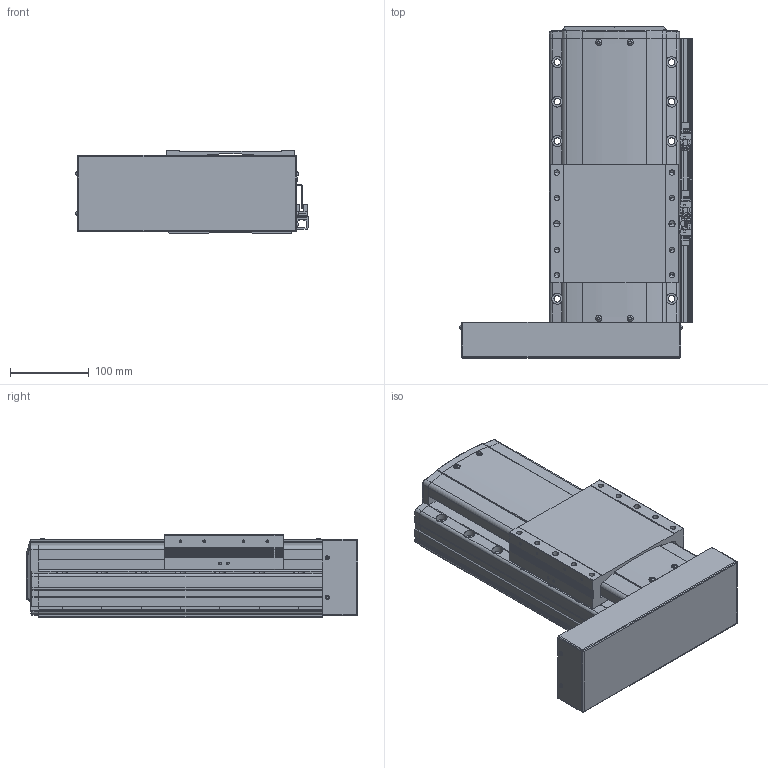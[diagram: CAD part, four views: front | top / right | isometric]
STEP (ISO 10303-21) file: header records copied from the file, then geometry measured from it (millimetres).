
FILE_DESCRIPTION(('STEP AP214'),'1');
FILE_NAME('Z:/Web/3D/PSA165/STP/PSA165-100 (3D)/PSA165ㅁㅁ-100PL+3SR.stp','2014-06-23T06:26:18',(' '),(' '),'Spatial InterOp 3D',' ',' ');
FILE_SCHEMA(('automotive_design'));
Length unit declared in the file: millimetre
Products named in the file (41): 스크루 : Round - M4.0 x 12.0; RRCV-PA160; BASE; 스크루 : Round - M4.0 x 10.0; RN15; Screw 20; SLIDE; FRCV; MTPL; 스크루 : Round - M3.0 x 6.0; M3.0 x 6.0; SRL-16x17-360L; SGD-SAN150; EE-SX674; SBK-SX674-352; BHCS M4.0 x 10.0
Bounding box: 294.46 x 420.8 x 104 mm (x, y, z)
Volume: 6631089.6 mm3; surface area: 586143.9 mm2
Topology: 41 solids, 41 shells, 2396 faces, 6401 edges, 4123 vertices
Faces by surface type: plane 1427, cylinder 675, cone 189, sphere 64, bspline 25, torus 16
Entity records: 97001 total; most frequent: CARTESIAN_POINT 16599, DIRECTION 12759, ORIENTED_EDGE 12566, EDGE_CURVE 6283, LINE 4325, VECTOR 4325, AXIS2_PLACEMENT_3D 4217, VERTEX_POINT 4123
